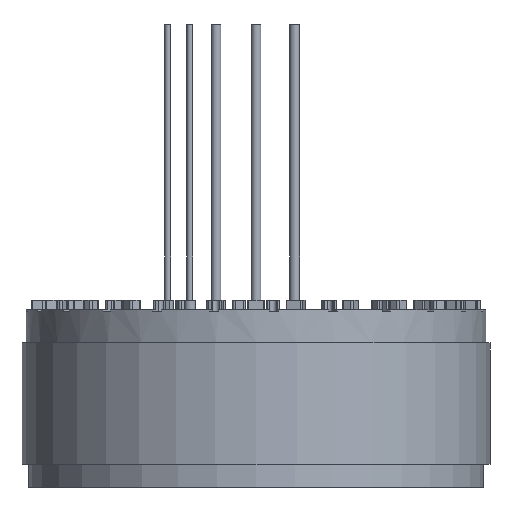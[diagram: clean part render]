
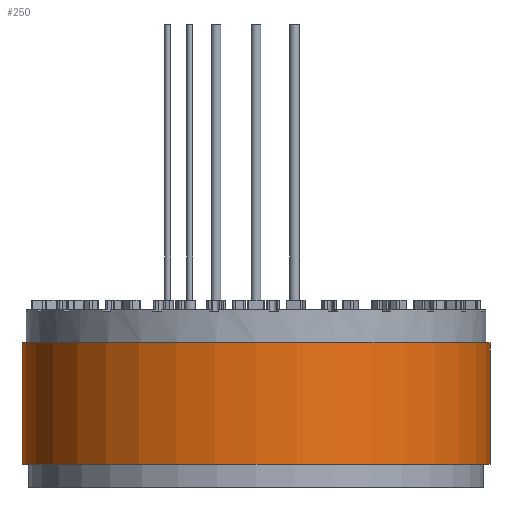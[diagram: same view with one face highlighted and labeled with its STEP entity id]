
A CAD part, front view. The second image highlights one B-rep face of the part: STEP entity #250.
In plain terms, the highlighted cylindrical face has radius 42.5 mm (diameter 85 mm), a full revolution.
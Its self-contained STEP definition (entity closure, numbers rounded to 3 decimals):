
#183=CARTESIAN_POINT('',(42.5,0.,0.));
#184=VERTEX_POINT('',#183);
#185=CARTESIAN_POINT('',(0.,0.,0.));
#186=DIRECTION('',(1.,0.,-0.));
#187=DIRECTION('',(0.,0.,1.));
#188=AXIS2_PLACEMENT_3D('',#185,#187,#186);
#189=CIRCLE('',#188,42.5);
#190=EDGE_CURVE('',#184,#184,#189,.T.);
#211=CARTESIAN_POINT('',(42.5,0.,-22.));
#212=VERTEX_POINT('',#211);
#213=CARTESIAN_POINT('',(0.,0.,-22.));
#214=DIRECTION('',(1.,0.,0.));
#215=DIRECTION('',(0.,0.,-1.));
#216=AXIS2_PLACEMENT_3D('',#213,#215,#214);
#217=CIRCLE('',#216,42.5);
#218=EDGE_CURVE('',#212,#212,#217,.T.);
#234=CARTESIAN_POINT('',(0.,0.,0.));
#235=DIRECTION('',(1.,0.,0.));
#236=DIRECTION('',(0.,0.,-1.));
#237=AXIS2_PLACEMENT_3D('',#234,#236,#235);
#238=CYLINDRICAL_SURFACE('',#237,42.5);
#239=CARTESIAN_POINT('',(42.5,0.,0.));
#240=DIRECTION('',(0.,0.,-1.));
#241=VECTOR('',#240,22.);
#242=LINE('',#239,#241);
#243=EDGE_CURVE('',#184,#212,#242,.T.);
#244=ORIENTED_EDGE('',*,*,#243,.T.);
#245=ORIENTED_EDGE('',*,*,#218,.F.);
#246=ORIENTED_EDGE('',*,*,#243,.F.);
#247=ORIENTED_EDGE('',*,*,#190,.F.);
#248=EDGE_LOOP('',(#244,#245,#246,#247));
#249=FACE_OUTER_BOUND('',#248,.T.);
#250=ADVANCED_FACE('',(#249),#238,.T.);
